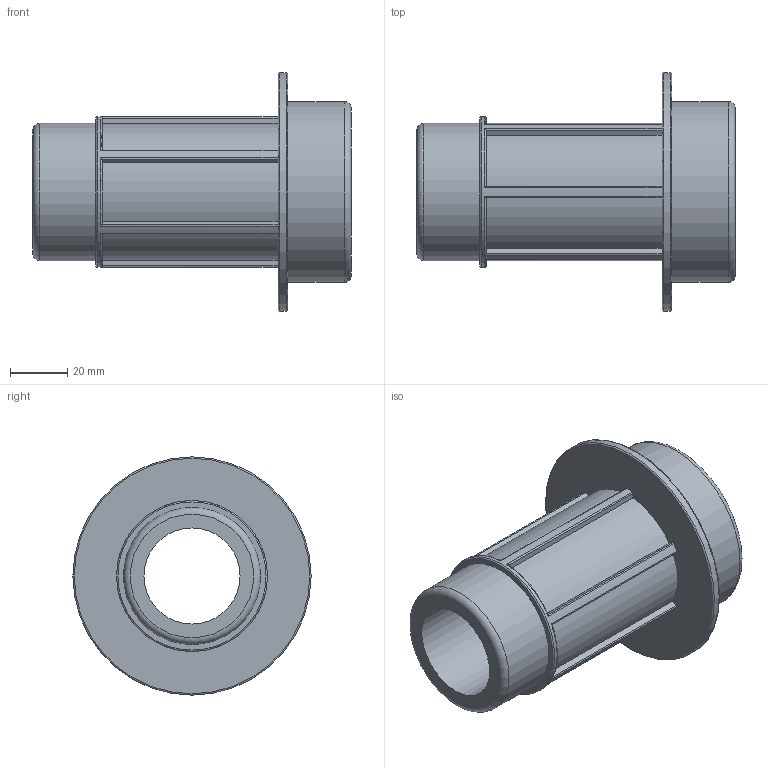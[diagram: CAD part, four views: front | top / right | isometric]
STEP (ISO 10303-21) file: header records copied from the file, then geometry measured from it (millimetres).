
FILE_DESCRIPTION(/* description */ ('PLASSON THREADED MALE ADAPTOR 63-1.1/2"'),/* implementation_level */ '2;1');
FILE_NAME(/* name */ 'C:\Dropbox\KIMPROJECTS-Inventor\99-16-3568-Processing\Silver+MF ISRAEL\078901\078901063015.ipt.stp',/* time_stamp */ '2018-04-09T13:02:05+03:00',/* author */ ('KIM'),/* organization */ (''),/* preprocessor_version */ 'ST-DEVELOPER v15.6',/* originating_system */ 'Autodesk Inventor 2015',/* authorisation */ '');
FILE_SCHEMA (('AUTOMOTIVE_DESIGN { 1 0 10303 214 3 1 1 }'));
Length unit declared in the file: millimetre
Products named in the file (1): 078901063015
Bounding box: 111 x 83 x 83 mm (x, y, z)
Volume: 146702.8 mm3; surface area: 40606.8 mm2
Topology: 1 solids, 1 shells, 57 faces, 151 edges, 99 vertices
Faces by surface type: cylinder 23, plane 23, torus 11
Full cylindrical faces by diameter (mm): 33.462 x1, 47.803 x1, 52.583 x1, 63 x1, 83 x1
Entity records: 1894 total; most frequent: CARTESIAN_POINT 488, DIRECTION 288, ORIENTED_EDGE 280, EDGE_CURVE 140, AXIS2_PLACEMENT_3D 114, VERTEX_POINT 98, EDGE_LOOP 72, LINE 60
